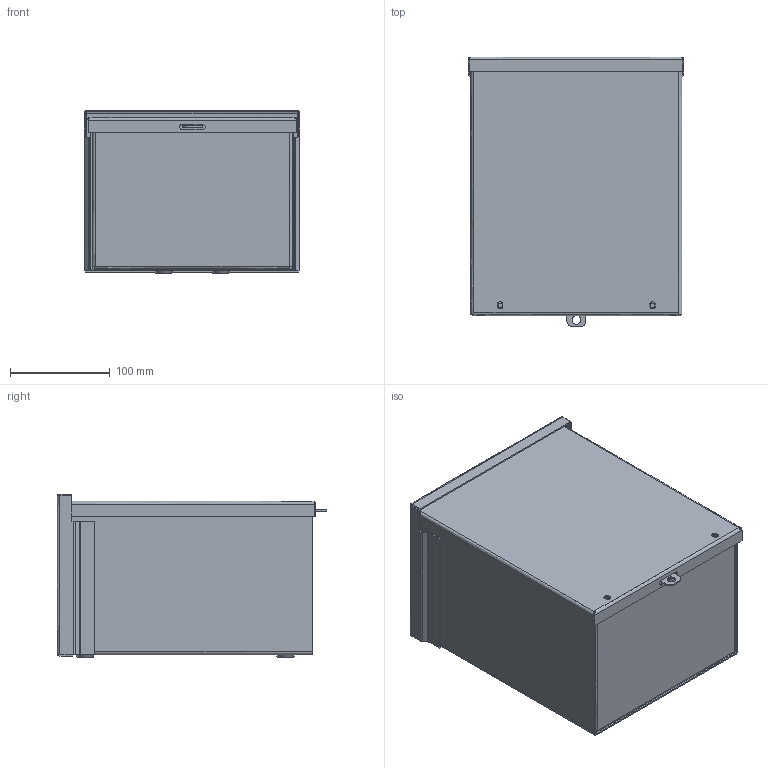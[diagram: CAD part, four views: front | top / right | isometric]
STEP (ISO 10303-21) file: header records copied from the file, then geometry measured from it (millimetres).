
FILE_DESCRIPTION((''),'2;1');
FILE_NAME('D:\scratch\ideas\a10r86nk.stp','2007-01-19T09:19:04',( 'User'),('SDRC'),'I-DEAS Master Series 9','UNIX','Yes');
FILE_SCHEMA(('AUTOMOTIVE_DESIGN { 1 0 10303 214 0 1 1 1 }'));
Length unit declared in the file: inch
Products named in the file (7): 13496; 3rsc_wmt_body_10x8x6_nk; 3rsc_top_8x6; 3rsc_bottom_8x6_nk; 3rsc_body_10x8x6; 3rsc_cover_10x8; 78124001
Assembly tree (6 placements, depth 3):
  13496
    3rsc_wmt_body_10x8x6_nk
      3rsc_top_8x6
      3rsc_bottom_8x6_nk
      3rsc_body_10x8x6
    3rsc_cover_10x8
    78124001
Bounding box: 215.9 x 269.95 x 163.83 mm (x, y, z)
Volume: 400377.3 mm3; surface area: 579933.7 mm2
Topology: 5 solids, 5 shells, 239 faces, 615 edges, 392 vertices
Faces by surface type: bspline 239
Entity records: 7574 total; most frequent: CARTESIAN_POINT 3603, ORIENTED_EDGE 1230, EDGE_CURVE 615, VERTEX_POINT 392, QUASI_UNIFORM_CURVE 308, EDGE_LOOP 273, FACE_OUTER_BOUND 239, ADVANCED_FACE 239
